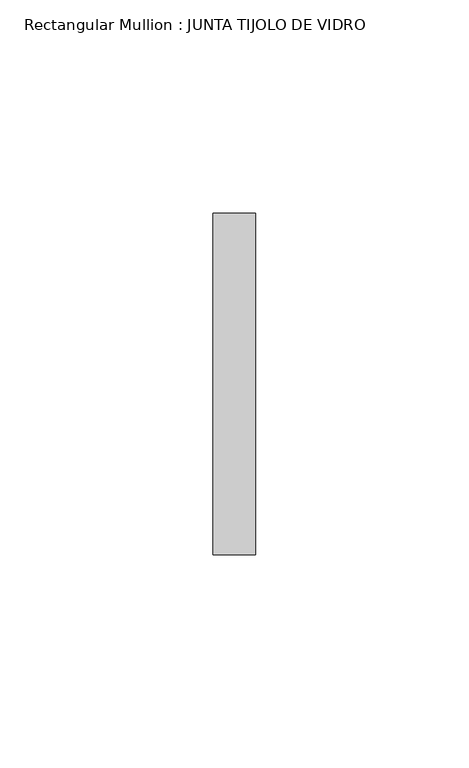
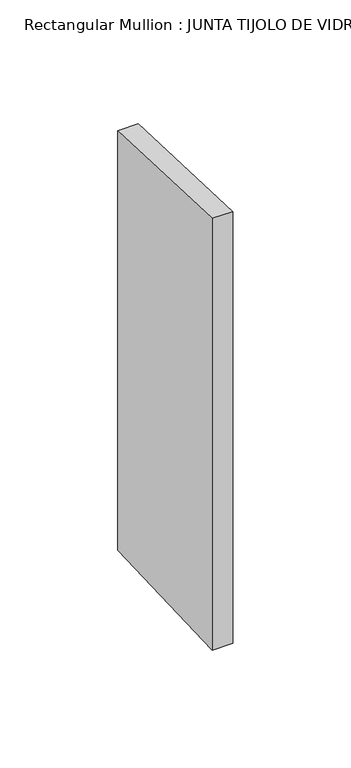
"""IFC4 building model written with IfcOpenShell, lengths in millimetres: member geometry, Rectangular Mullion : JUNTA TIJOLO DE VIDRO."""

from ifc_helpers import new_model, si_unit, frame, origin, place, context, project, spatial, polyline, outline, extrude, source, transform, mapped, element, save


def rectangular_mullion_junta_tijolo_de_vidro_969d4758(model_context):
    return source(origin(), model_context, "Body", "SweptSolid", [
        extrude(outline(polyline([(-40.0, 1.5506987), (40.0, -1.5506987), (40.0, -218.7385578), (-40.0, -221.8752034), (-40.0, 1.5506987)])), frame((-10.0, 0.0, 0.0), z_axis=(1.0, 0.0, 0.0), x_axis=(0.0, 1.0, 0.0)), (0.0, 0.0, 1.0), 10.0),
    ])


if __name__ == "__main__":
    model = new_model("IFC4")
    model_context = context("Model", 3, world=origin())
    ifc_project = project(units=[si_unit("LENGTHUNIT", "METRE", prefix="MILLI")], contexts=[model_context])
    site = spatial("IfcSite", under=ifc_project)
    building = spatial("IfcBuilding", under=site)
    placement = place(None, origin())
    rectangular_mullion_junta_tijolo_de_vidro_shape = rectangular_mullion_junta_tijolo_de_vidro_969d4758(model_context)
    element("IfcMember", 1, ObjectType="Rectangular Mullion : JUNTA TIJOLO DE VIDRO", at=placement, inside=building, context=model_context, shape_type="MappedRepresentation", body=[
        mapped(rectangular_mullion_junta_tijolo_de_vidro_shape, transform((0.0, 0.0, 0.0), x_axis=(1.0, 0.0, 0.0), y_axis=(0.0, 1.0, 0.0), z_axis=(0.0, 0.0, 1.0))),
    ])
    save(model, "model.ifc")
